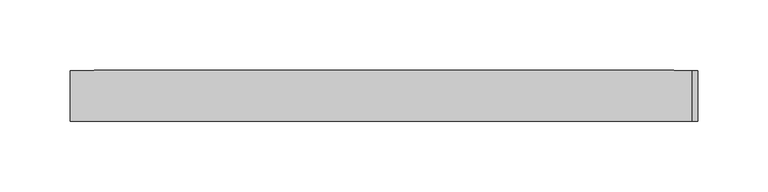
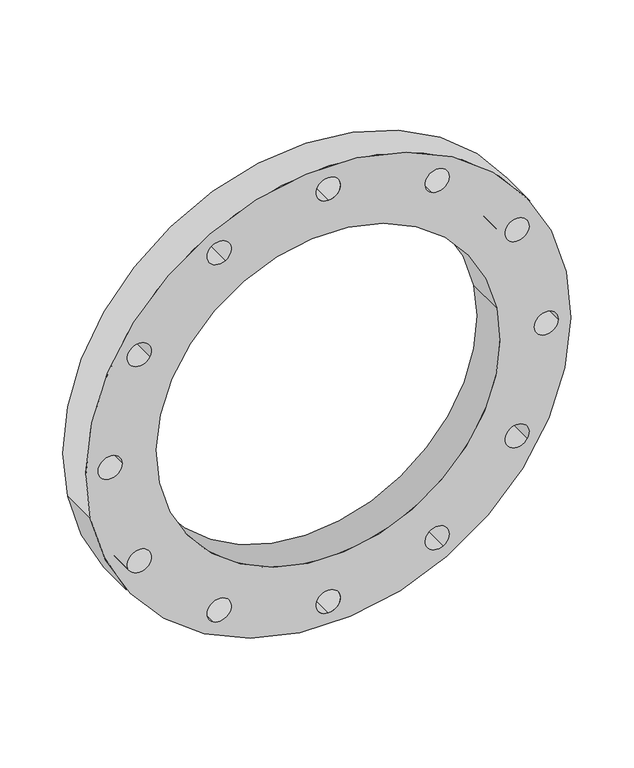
"""IFC4 building model written with IfcOpenShell, lengths in millimetres: pipe fitting geometry, 01051019 : Bridas."""

from ifc_helpers import new_model, si_unit, point, frame, frame_2d, origin, origin_2d, place, context, project, spatial, circle_curve, trimmed, segment, composite_curve, outline, extrude, source, transform, mapped, element, save


def pipe_fitting_d7bd5ad1(model_context):
    return source(origin(), model_context, "Body", "SweptSolid", [
        extrude(outline(composite_curve([segment(trimmed(circle_curve(origin_2d(), 222.5), [point((-43.4075966, -218.2247249))], [point((43.4075966, 218.2247249))], False, "CARTESIAN"), True, "CONTINUOUS"), segment(trimmed(circle_curve(origin_2d(), 222.5), [point((43.4075966, 218.2247249))], [point((-43.4075966, -218.2247249))], False, "CARTESIAN"), True, "CONTINUOUS")], self_intersect=False), holes=[composite_curve([segment(trimmed(circle_curve(origin_2d(), 157.5), [point((-30.7267257, -154.4736817))], [point((30.7267257, 154.4736817))], True, "CARTESIAN"), True, "CONTINUOUS"), segment(trimmed(circle_curve(origin_2d(), 157.5), [point((30.7267257, 154.4736817))], [point((-30.7267257, -154.4736817))], True, "CARTESIAN"), True, "CONTINUOUS")], self_intersect=False), composite_curve([segment(trimmed(circle_curve(frame_2d((0.0, -200.0)), 11.0), [point((0.0, -189.0))], [point((0.0, -211.0))], True, "CARTESIAN"), True, "CONTINUOUS"), segment(trimmed(circle_curve(frame_2d((0.0, -200.0)), 11.0), [point((0.0, -211.0))], [point((0.0, -189.0))], True, "CARTESIAN"), True, "CONTINUOUS")], self_intersect=False), composite_curve([segment(trimmed(circle_curve(frame_2d((100.0, -173.2050808)), 11.0), [point((94.5, -163.6788013))], [point((105.5, -182.7313602))], True, "CARTESIAN"), True, "CONTINUOUS"), segment(trimmed(circle_curve(frame_2d((100.0, -173.2050808)), 11.0), [point((105.5, -182.7313602))], [point((94.5, -163.6788013))], True, "CARTESIAN"), True, "CONTINUOUS")], self_intersect=False), composite_curve([segment(trimmed(circle_curve(frame_2d((-100.0, -173.2050808)), 11.0), [point((-94.5, -163.6788013))], [point((-105.5, -182.7313602))], True, "CARTESIAN"), True, "CONTINUOUS"), segment(trimmed(circle_curve(frame_2d((-100.0, -173.2050808)), 11.0), [point((-105.5, -182.7313602))], [point((-94.5, -163.6788013))], True, "CARTESIAN"), True, "CONTINUOUS")], self_intersect=False), composite_curve([segment(trimmed(circle_curve(frame_2d((-173.2050808, -100.0)), 11.0), [point((-163.6788013, -94.5))], [point((-182.7313602, -105.5))], True, "CARTESIAN"), True, "CONTINUOUS"), segment(trimmed(circle_curve(frame_2d((-173.2050808, -100.0)), 11.0), [point((-182.7313602, -105.5))], [point((-163.6788013, -94.5))], True, "CARTESIAN"), True, "CONTINUOUS")], self_intersect=False), composite_curve([segment(trimmed(circle_curve(frame_2d((-200.0, 0.0)), 11.0), [point((-189.0, 0.0))], [point((-211.0, 0.0))], True, "CARTESIAN"), True, "CONTINUOUS"), segment(trimmed(circle_curve(frame_2d((-200.0, 0.0)), 11.0), [point((-211.0, 0.0))], [point((-189.0, 0.0))], True, "CARTESIAN"), True, "CONTINUOUS")], self_intersect=False), composite_curve([segment(trimmed(circle_curve(frame_2d((-173.2050808, 100.0)), 11.0), [point((-163.6788013, 94.5))], [point((-182.7313602, 105.5))], True, "CARTESIAN"), True, "CONTINUOUS"), segment(trimmed(circle_curve(frame_2d((-173.2050808, 100.0)), 11.0), [point((-182.7313602, 105.5))], [point((-163.6788013, 94.5))], True, "CARTESIAN"), True, "CONTINUOUS")], self_intersect=False), composite_curve([segment(trimmed(circle_curve(frame_2d((-100.0, 173.2050808)), 11.0), [point((-94.5, 163.6788013))], [point((-105.5, 182.7313602))], True, "CARTESIAN"), True, "CONTINUOUS"), segment(trimmed(circle_curve(frame_2d((-100.0, 173.2050808)), 11.0), [point((-105.5, 182.7313602))], [point((-94.5, 163.6788013))], True, "CARTESIAN"), True, "CONTINUOUS")], self_intersect=False), composite_curve([segment(trimmed(circle_curve(frame_2d((0.0, 200.0)), 11.0), [point((0.0, 189.0))], [point((0.0, 211.0))], True, "CARTESIAN"), True, "CONTINUOUS"), segment(trimmed(circle_curve(frame_2d((0.0, 200.0)), 11.0), [point((0.0, 211.0))], [point((0.0, 189.0))], True, "CARTESIAN"), True, "CONTINUOUS")], self_intersect=False), composite_curve([segment(trimmed(circle_curve(frame_2d((100.0, 173.2050808)), 11.0), [point((94.5, 163.6788013))], [point((105.5, 182.7313602))], True, "CARTESIAN"), True, "CONTINUOUS"), segment(trimmed(circle_curve(frame_2d((100.0, 173.2050808)), 11.0), [point((105.5, 182.7313602))], [point((94.5, 163.6788013))], True, "CARTESIAN"), True, "CONTINUOUS")], self_intersect=False), composite_curve([segment(trimmed(circle_curve(frame_2d((173.2050808, 100.0)), 11.0), [point((163.6788013, 94.5))], [point((182.7313602, 105.5))], True, "CARTESIAN"), True, "CONTINUOUS"), segment(trimmed(circle_curve(frame_2d((173.2050808, 100.0)), 11.0), [point((182.7313602, 105.5))], [point((163.6788013, 94.5))], True, "CARTESIAN"), True, "CONTINUOUS")], self_intersect=False), composite_curve([segment(trimmed(circle_curve(frame_2d((200.0, 0.0)), 11.0), [point((189.0, 0.0))], [point((211.0, 0.0))], True, "CARTESIAN"), True, "CONTINUOUS"), segment(trimmed(circle_curve(frame_2d((200.0, 0.0)), 11.0), [point((211.0, 0.0))], [point((189.0, 0.0))], True, "CARTESIAN"), True, "CONTINUOUS")], self_intersect=False), composite_curve([segment(trimmed(circle_curve(frame_2d((173.2050808, -100.0)), 11.0), [point((163.6788013, -94.5))], [point((182.7313602, -105.5))], True, "CARTESIAN"), True, "CONTINUOUS"), segment(trimmed(circle_curve(frame_2d((173.2050808, -100.0)), 11.0), [point((182.7313602, -105.5))], [point((163.6788013, -94.5))], True, "CARTESIAN"), True, "CONTINUOUS")], self_intersect=False)]), frame((0.0, -18.0, 0.0), z_axis=(0.0, 1.0, 0.0), x_axis=(0.0, 0.0, 1.0)), (0.0, 0.0, 1.0), 36.0),
    ])


if __name__ == "__main__":
    model = new_model("IFC4")
    model_context = context("Model", 3, world=origin())
    ifc_project = project(units=[si_unit("LENGTHUNIT", "METRE", prefix="MILLI")], contexts=[model_context])
    site = spatial("IfcSite", under=ifc_project)
    building = spatial("IfcBuilding", under=site)
    placement = place(None, origin())
    pipe_fitting_shape = pipe_fitting_d7bd5ad1(model_context)
    element("IfcPipeFitting", 1, ObjectType="01051019 : Bridas", at=placement, inside=building, context=model_context, shape_type="MappedRepresentation", body=[
        mapped(pipe_fitting_shape, transform((0.0, 0.0, 0.0), x_axis=(1.0, 0.0, 0.0), y_axis=(0.0, 1.0, 0.0), z_axis=(0.0, 0.0, 1.0))),
    ])
    save(model, "model.ifc")
